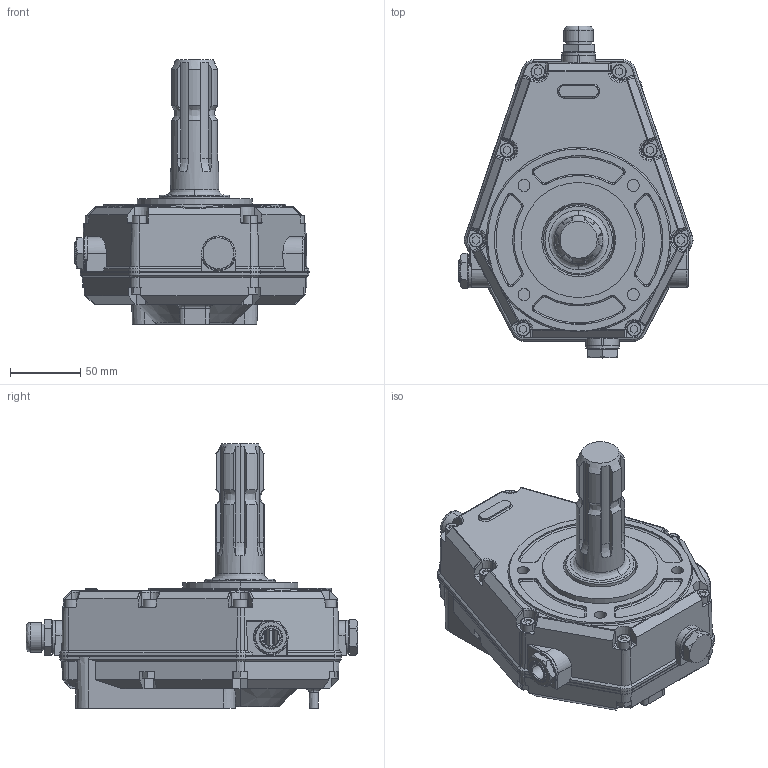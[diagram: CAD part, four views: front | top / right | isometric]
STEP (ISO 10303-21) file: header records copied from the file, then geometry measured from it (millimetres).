
FILE_DESCRIPTION (( 'STEP AP203' ), '1' );
FILE_NAME ('60001_2.STEP', '2020-09-22T15:14:47', ( '' ), ( '' ), 'SwSTEP 2.0', 'SolidWorks 2020', '' );
FILE_SCHEMA (( 'CONFIG_CONTROL_DESIGN' ));
Products named in the file (1): 60001_2
Bounding box: 166.73 x 236.5 x 188.35 mm (x, y, z)
Volume: 1042895.5 mm3; surface area: 356920.3 mm2
Topology: 33 solids, 33 shells, 2960 faces, 7686 edges, 4814 vertices
Faces by surface type: cylinder 961, plane 884, bspline 588, cone 519, torus 8
Entity records: 111704 total; most frequent: CARTESIAN_POINT 44182, ORIENTED_EDGE 15262, DIRECTION 12712, EDGE_CURVE 7631, AXIS2_PLACEMENT_3D 4852, VERTEX_POINT 4814, EDGE_LOOP 3137, VECTOR 3008
